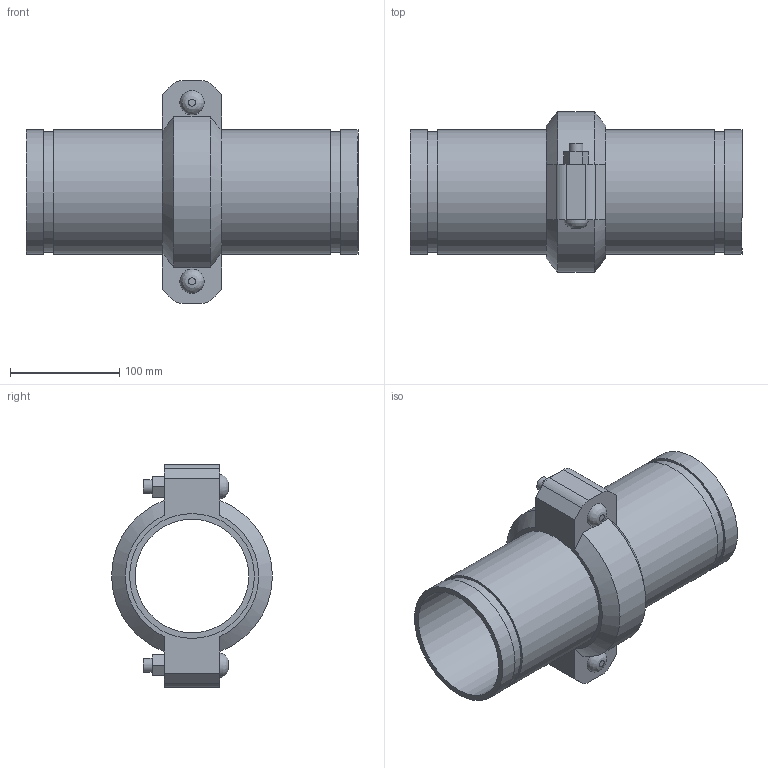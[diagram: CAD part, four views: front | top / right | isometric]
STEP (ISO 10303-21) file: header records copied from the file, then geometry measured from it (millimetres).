
FILE_DESCRIPTION(/* description */ ('VIC EXPANSION JOINT 1 COUPLING COMPRESSED STYLE 155 (OGS)','CAx-IF Rec.Pracs.---Representation and Presentation of Product Manufacturing Information (PMI)---4.0---2014-10-13'),/* implementation_level */ '2;1');
FILE_NAME(/* name */ 'C:\Users\kkamble\AppData\Roaming\Autodesk\ApplicationPlugins\Victaulic.Temp\A74\Victaulic_IPS_Expansion Joint_Compressed_1 Coupling_Style 155 (OGS)_4 (100).stp',/* time_stamp */ '2021-06-27T00:14:31+02:00',/* author */ ('kkamble'),/* organization */ ('Victaulic'),/* preprocessor_version */ 'ST-DEVELOPER v17.2',/* originating_system */ 'Autodesk Inventor 2019',/* authorisation */ '');
FILE_SCHEMA (('AP242_MANAGED_MODEL_BASED_3D_ENGINEERING_MIM_LF { 1 0 10303 442 1 1 4 }'));
Length unit declared in the file: inch
Products named in the file (3): 155-04.0; Nipple-04.0; 075-04.0
Assembly tree (3 placements, depth 2):
  155-04.0
    Nipple-04.0  x2
    075-04.0
Bounding box: 304.04 x 147.32 x 203.96 mm (x, y, z)
Volume: 988436.2 mm3; surface area: 298514.6 mm2
Topology: 3 solids, 5 shells, 81 faces, 193 edges, 138 vertices
Faces by surface type: plane 48, cylinder 27, cone 4, bspline 2
Full cylindrical faces by diameter (mm): 12.7 x4, 14.605 x2, 103.988 x2, 107.95 x1, 110.084 x4, 114.3 x8
Entity records: 2310 total; most frequent: CARTESIAN_POINT 420, DIRECTION 369, ORIENTED_EDGE 326, EDGE_CURVE 163, AXIS2_PLACEMENT_3D 141, VERTEX_POINT 114, EDGE_LOOP 89, LINE 87
